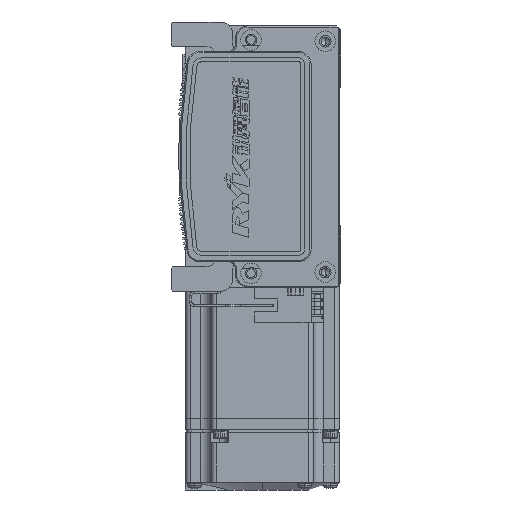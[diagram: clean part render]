
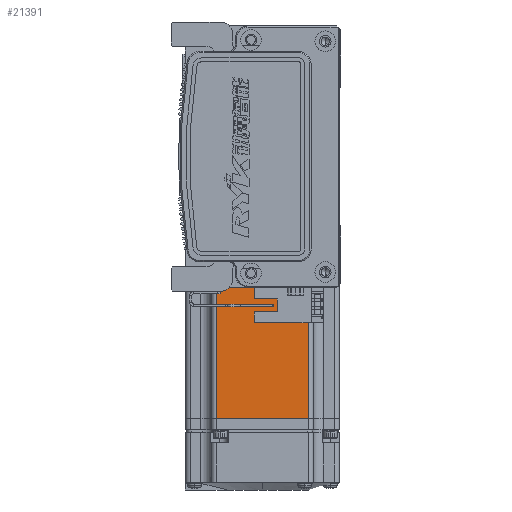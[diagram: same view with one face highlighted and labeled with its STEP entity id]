
A CAD part, left-side view. The second image highlights one B-rep face of the part: STEP entity #21391.
In plain terms, the highlighted planar face has unit normal (-1, 0, 0) as drawn and (0, 0, 1) by its records, which use the part's own axes.
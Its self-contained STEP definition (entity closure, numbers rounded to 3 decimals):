
#518 = ORIENTED_EDGE ( 'NONE', *, *, #52189, .T. ) ;
#4114 = AXIS2_PLACEMENT_3D ( 'NONE', #61173, #13681, #66896 ) ;
#7954 = CARTESIAN_POINT ( 'NONE',  ( -70.95, 18., 30. ) ) ;
#8966 = VECTOR ( 'NONE', #44734, 1000. ) ;
#8977 = EDGE_LOOP ( 'NONE', ( #20994, #518, #41488, #39040 ) ) ;
#11978 = CARTESIAN_POINT ( 'NONE',  ( -7.75, 18., 30. ) ) ;
#13681 = DIRECTION ( 'NONE',  ( 0., 0., 1. ) ) ;
#13812 = CARTESIAN_POINT ( 'NONE',  ( -70.95, 0., 30. ) ) ;
#16397 = VECTOR ( 'NONE', #49783, 1000. ) ;
#17738 = CARTESIAN_POINT ( 'NONE',  ( -6.5, 18., 30. ) ) ;
#20994 = ORIENTED_EDGE ( 'NONE', *, *, #33432, .F. ) ;
#21391 = ADVANCED_FACE ( 'NONE', ( #43440 ), #30149, .T. ) ;
#21599 = CARTESIAN_POINT ( 'NONE',  ( -6.5, -18., 30. ) ) ;
#21684 = CARTESIAN_POINT ( 'NONE',  ( -7.75, -18., 30. ) ) ;
#21791 = LINE ( 'NONE', #33884, #40626 ) ;
#22875 = LINE ( 'NONE', #13812, #8966 ) ;
#30112 = EDGE_CURVE ( 'NONE', #43613, #53452, #31239, .T. ) ;
#30149 = PLANE ( 'NONE',  #4114 ) ;
#31239 = LINE ( 'NONE', #21599, #56758 ) ;
#33432 = EDGE_CURVE ( 'NONE', #67252, #43613, #21791, .T. ) ;
#33884 = CARTESIAN_POINT ( 'NONE',  ( -7.75, 0., 30. ) ) ;
#37356 = DIRECTION ( 'NONE',  ( -1., 0., 0. ) ) ;
#39040 = ORIENTED_EDGE ( 'NONE', *, *, #30112, .F. ) ;
#40626 = VECTOR ( 'NONE', #60577, 1000. ) ;
#41488 = ORIENTED_EDGE ( 'NONE', *, *, #53438, .T. ) ;
#43440 = FACE_OUTER_BOUND ( 'NONE', #8977, .T. ) ;
#43613 = VERTEX_POINT ( 'NONE', #21684 ) ;
#44518 = CARTESIAN_POINT ( 'NONE',  ( -70.95, -18., 30. ) ) ;
#44734 = DIRECTION ( 'NONE',  ( 0., -1., 0. ) ) ;
#49783 = DIRECTION ( 'NONE',  ( -1., 0., 0. ) ) ;
#52189 = EDGE_CURVE ( 'NONE', #67252, #58552, #67259, .T. ) ;
#53438 = EDGE_CURVE ( 'NONE', #58552, #53452, #22875, .T. ) ;
#53452 = VERTEX_POINT ( 'NONE', #44518 ) ;
#56758 = VECTOR ( 'NONE', #37356, 1000. ) ;
#58552 = VERTEX_POINT ( 'NONE', #7954 ) ;
#60577 = DIRECTION ( 'NONE',  ( 0., -1., 0. ) ) ;
#61173 = CARTESIAN_POINT ( 'NONE',  ( -6.5, -25., 30. ) ) ;
#66896 = DIRECTION ( 'NONE',  ( 1., 0., 0. ) ) ;
#67252 = VERTEX_POINT ( 'NONE', #11978 ) ;
#67259 = LINE ( 'NONE', #17738, #16397 ) ;
